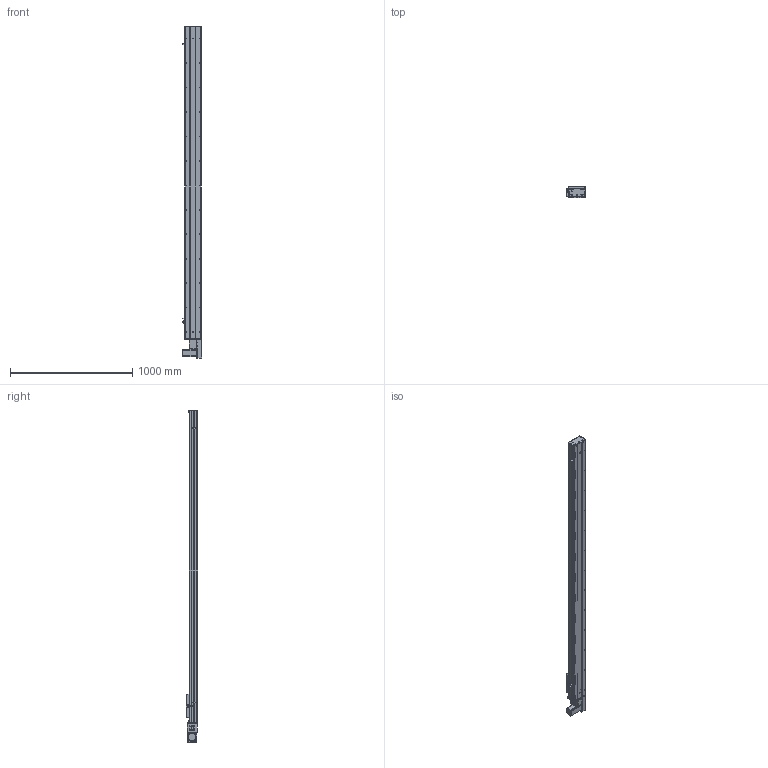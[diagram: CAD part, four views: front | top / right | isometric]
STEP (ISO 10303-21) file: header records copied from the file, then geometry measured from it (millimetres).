
FILE_DESCRIPTION (( 'STEP AP203' ), '1' );
FILE_NAME ('Y135CB-D90-S2250-BL-P400W.STEP', '2020-02-18T01:35:07', ( '微软用户' ), ( '微软中国' ), 'SwSTEP 2.0', 'SolidWorks 2017', '' );
FILE_SCHEMA (( 'CONFIG_CONTROL_DESIGN' ));
Length unit declared in the file: millimetre
Products named in the file (18): Y135CB-耜裔; 135CB--詩湍-CE; 135CB---遴掛极.-; Y100-135俋离換覜ん--; Y俋欶BR----; 35CB---喘謫眊楊擘啣; Y135C-陔俋离換覜結え-; 0B-埴倛裔啣; Y10B--々湍喘謫眊--666; 5C--俋欶; 0B-源倛裔啣; Y10B-耜蚾蟀諉啣----; C-雄赽釱--; 0B-萇儂楊擘啣; Y135CB-D90-S2250-BL-P400W; san松下电机400不带刹车----; 5CB --掛极耜裔啣-; C-詩湍揤踡え-陔
Assembly tree (21 placements, depth 2):
  Y135CB-D90-S2250-BL-P400W
    Y135CB-耜裔
    135CB---遴掛极.-
    35CB---喘謫眊楊擘啣
    Y10B--々湍喘謫眊--666
    Y10B-耜蚾蟀諉啣----
    Y俋欶BR----
    0B-埴倛裔啣
    0B-源倛裔啣
    0B-萇儂楊擘啣
    san松下电机400不带刹车----
    5CB --掛极耜裔啣-  x2
    C-詩湍揤踡え-陔  x2
    135CB--詩湍-CE
    Y100-135俋离換覜ん--  x3
    Y135C-陔俋离換覜結え-
    5C--俋欶
    C-雄赽釱--
Bounding box: 157.5 x 91 x 2714.5 mm (x, y, z)
Volume: 7633498.3 mm3; surface area: 3020452.4 mm2
Topology: 21 solids, 21 shells, 969 faces, 2635 edges, 1746 vertices
Faces by surface type: cylinder 495, plane 458, cone 16
Entity records: 30553 total; most frequent: CARTESIAN_POINT 5076, DIRECTION 5075, ORIENTED_EDGE 4746, EDGE_CURVE 2373, AXIS2_PLACEMENT_3D 1857, VERTEX_POINT 1574, LINE 1361, VECTOR 1361
